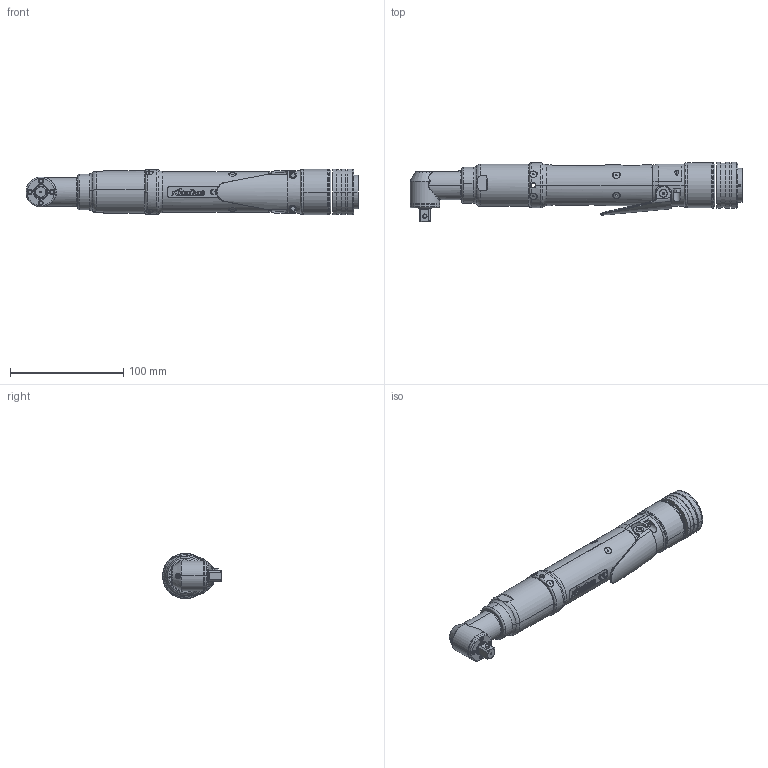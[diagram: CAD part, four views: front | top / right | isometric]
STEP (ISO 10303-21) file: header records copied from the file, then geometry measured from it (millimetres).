
FILE_DESCRIPTION (( 'STEP AP214' ), '1' );
FILE_NAME ('AEN4C12009B.STEP', '2012-08-06T20:35:14', ( 'AIMCO' ), ( 'Microsoft' ), 'SwSTEP 2.0', 'SolidWorks 2012', '' );
FILE_SCHEMA (( 'AUTOMOTIVE_DESIGN' ));
Length unit declared in the file: inch
Products named in the file (1): AEN4C12009B
Bounding box: 292.64 x 52.25 x 40.39 mm (x, y, z)
Surface area: 61504.7 mm2 (no closed solid volume)
Topology: 0 solids, 66 shells, 1017 faces, 4545 edges, 3451 vertices
Faces by surface type: plane 376, cone 223, cylinder 219, torus 109, bspline 84, sphere 6
Entity records: 66902 total; most frequent: CARTESIAN_POINT 19259, ORIENTED_EDGE 6667, DIRECTION 6595, EDGE_CURVE 4543, VERTEX_POINT 3451, LINE 2497, VECTOR 2497, AXIS2_PLACEMENT_3D 2049
